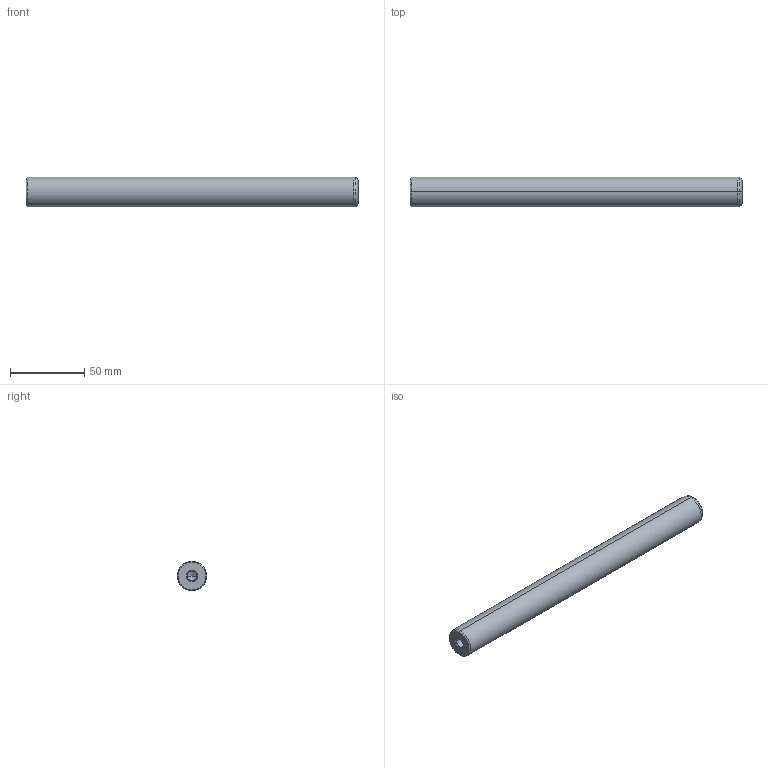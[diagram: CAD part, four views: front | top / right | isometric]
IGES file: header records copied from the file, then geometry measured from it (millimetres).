
Start section: START RECORD GO HERE.
Global section: file name: 720-20x224.igs; native system: DASSAULT SYSTEMES CATIA V5 R20 - www.3ds.com; preprocessor: CATIA Version 5 Release 20 ; author: Utente; organization: NB04-ASUS; date: 20210101.135644; units: millimetre
Bounding box: 224 x 20 x 20 mm (x, y, z)
Surface area: 15595.9 mm2 (no closed solid volume)
Topology: 0 solids, 0 shells, 22 faces, 108 edges, 104 vertices
Faces by surface type: revolution 20, plane 2
